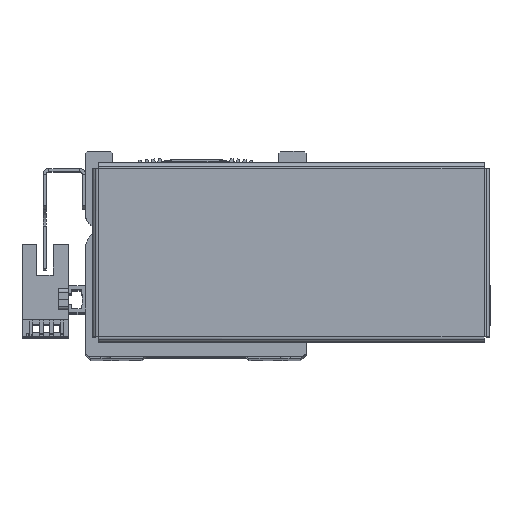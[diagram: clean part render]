
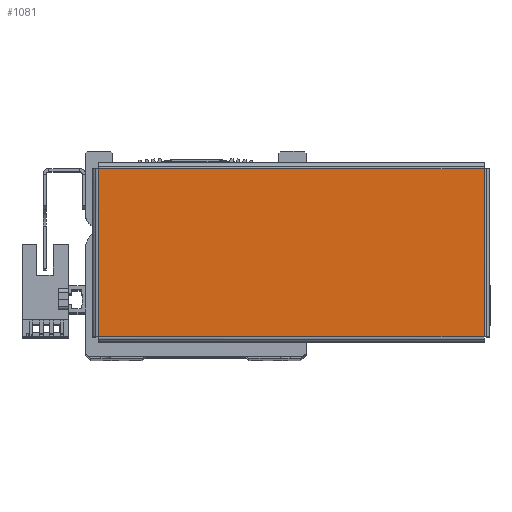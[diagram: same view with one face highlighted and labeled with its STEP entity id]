
A CAD part, top view. The second image highlights one B-rep face of the part: STEP entity #1081.
In plain terms, the highlighted planar face has unit normal (0, 0, 1) as drawn and (0, 0, -1) by its records, which use the part's own axes.
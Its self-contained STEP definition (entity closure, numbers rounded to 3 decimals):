
#27 = DIRECTION ( 'NONE',  ( 0., 1., 0. ) ) ;
#64 = CARTESIAN_POINT ( 'NONE',  ( -56.863, -24.793, -1. ) ) ;
#1081 = ADVANCED_FACE ( 'NONE', ( #23182 ), #13520, .F. ) ;
#1890 = VECTOR ( 'NONE', #5875, 1000. ) ;
#1902 = LINE ( 'NONE', #5895, #1890 ) ;
#1906 = VECTOR ( 'NONE', #5888, 1000. ) ;
#1908 = LINE ( 'NONE', #5871, #1913 ) ;
#1913 = VECTOR ( 'NONE', #5865, 1000. ) ;
#1915 = LINE ( 'NONE', #5870, #1906 ) ;
#1976 = LINE ( 'NONE', #64, #1978 ) ;
#1978 = VECTOR ( 'NONE', #27, 1000. ) ;
#5865 = DIRECTION ( 'NONE',  ( 1., 0., 0. ) ) ;
#5870 = CARTESIAN_POINT ( 'NONE',  ( 56.863, 24.793, -1. ) ) ;
#5871 = CARTESIAN_POINT ( 'NONE',  ( -56.893, 24.763, -1. ) ) ;
#5875 = DIRECTION ( 'NONE',  ( -1., 0., 0. ) ) ;
#5888 = DIRECTION ( 'NONE',  ( 0., -1., 0. ) ) ;
#5895 = CARTESIAN_POINT ( 'NONE',  ( 56.893, -24.763, -1. ) ) ;
#12302 = CARTESIAN_POINT ( 'NONE',  ( -56.863, 24.763, -1. ) ) ;
#12307 = CARTESIAN_POINT ( 'NONE',  ( 56.863, 24.763, -1. ) ) ;
#12339 = CARTESIAN_POINT ( 'NONE',  ( -56.863, -24.763, -1. ) ) ;
#12406 = CARTESIAN_POINT ( 'NONE',  ( 56.863, -24.763, -1. ) ) ;
#13499 = CARTESIAN_POINT ( 'NONE',  ( 0., 0., -1. ) ) ;
#13504 = DIRECTION ( 'NONE',  ( 0., 0., 1. ) ) ;
#13512 = DIRECTION ( 'NONE',  ( 1., 0., 0. ) ) ;
#13520 = PLANE ( 'NONE',  #32014 ) ;
#23182 = FACE_OUTER_BOUND ( 'NONE', #36009, .T. ) ;
#30595 = VERTEX_POINT ( 'NONE', #12302 ) ;
#30611 = VERTEX_POINT ( 'NONE', #12339 ) ;
#30619 = VERTEX_POINT ( 'NONE', #12406 ) ;
#30625 = VERTEX_POINT ( 'NONE', #12307 ) ;
#32014 = AXIS2_PLACEMENT_3D ( 'NONE', #13499, #13504, #13512 ) ;
#34014 = EDGE_CURVE ( 'NONE', #30619, #30611, #1902, .T. ) ;
#34015 = EDGE_CURVE ( 'NONE', #30595, #30625, #1908, .T. ) ;
#34020 = EDGE_CURVE ( 'NONE', #30625, #30619, #1915, .T. ) ;
#34054 = EDGE_CURVE ( 'NONE', #30611, #30595, #1976, .T. ) ;
#35567 = ORIENTED_EDGE ( 'NONE', *, *, #34015, .T. ) ;
#35583 = ORIENTED_EDGE ( 'NONE', *, *, #34014, .T. ) ;
#35623 = ORIENTED_EDGE ( 'NONE', *, *, #34054, .T. ) ;
#35653 = ORIENTED_EDGE ( 'NONE', *, *, #34020, .T. ) ;
#36009 = EDGE_LOOP ( 'NONE', ( #35653, #35583, #35623, #35567 ) ) ;
